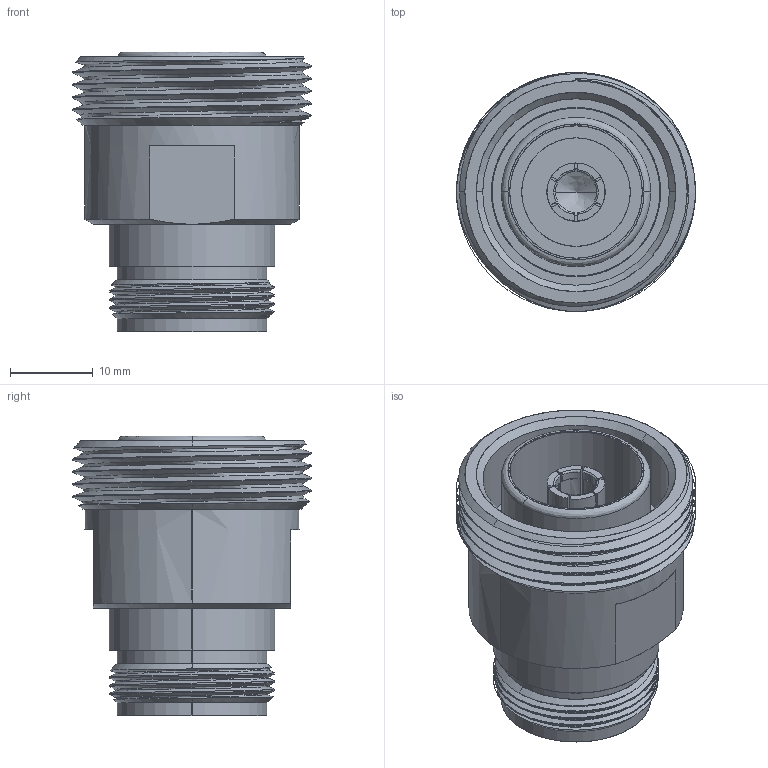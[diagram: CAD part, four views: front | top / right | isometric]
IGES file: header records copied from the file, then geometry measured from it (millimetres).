
Start section: SolidWorks IGES file using analytic representation for surfaces
Global section: file name: E:\Solidworks\Sketches\Shannon\1_MODELS_WEB\4.1_9.5\2228000Q001-052\2228000Q001-052igs.IGS; native system: SolidWorks 2014; preprocessor: SolidWorks 2014; author: sculpepper; date: 151123.081905; units: inch
Bounding box: 28.83 x 28.83 x 33.76 mm (x, y, z)
Surface area: 6900.1 mm2 (no closed solid volume)
Topology: 0 solids, 0 shells, 166 faces, 2960 edges, 3381 vertices
Faces by surface type: revolution 91, bspline 75
